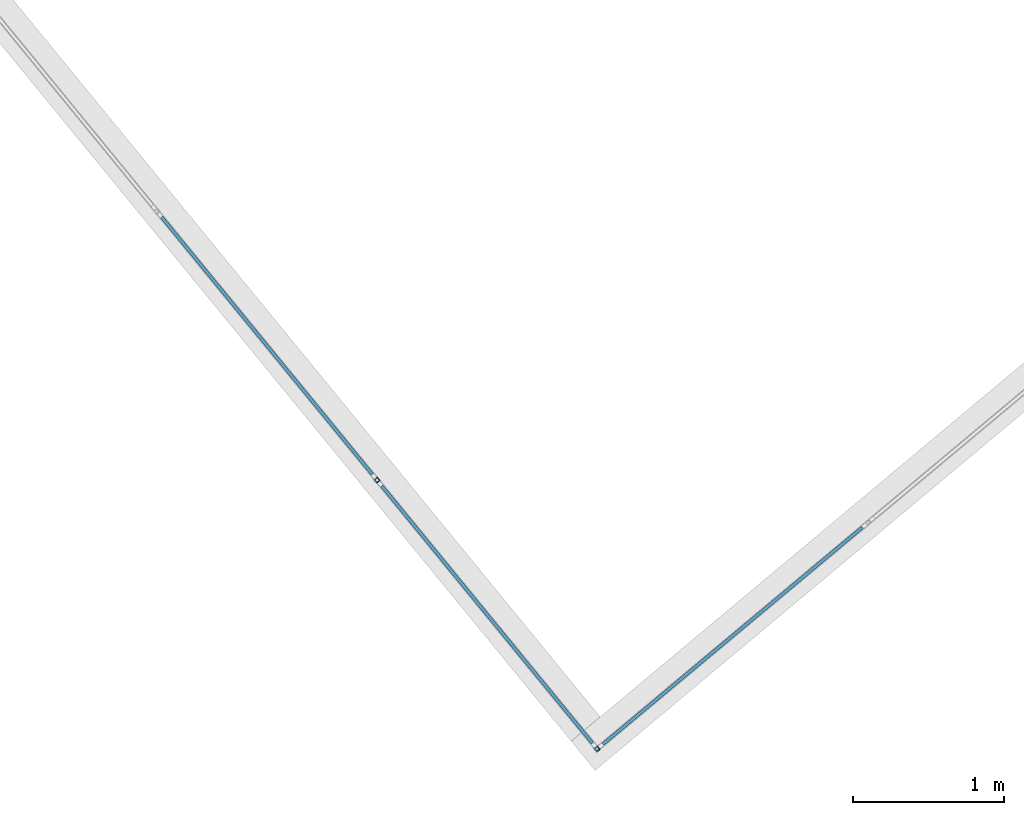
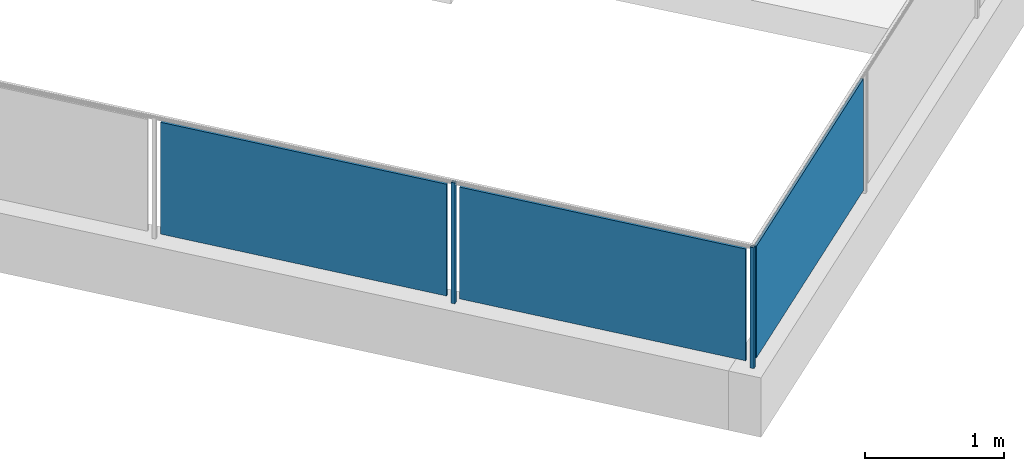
# One storey, part 16 of 67: 5 building element parts, 1 element without a shape of its own.
"""IFC4 building model written with IfcOpenShell, lengths in metres."""

import ifcopenshell
import ifcopenshell.guid

model = None  # the IFC model being written
_history = None  # IfcOwnerHistory: only IFC2X3 demands one
_inside = {}  # id of a spatial element -> (the spatial element, [elements in it])
_under = {}  # id of a project, library or spatial element -> (it, [spatial elements below it])
_declared = {}  # id of a project -> (the project, [libraries it declares])
_typed = {}  # id of a type object -> (the type object, [elements of that type])
_made_of = {}  # id of a material, layer set ... -> (it, [elements and type objects made of it])


def new_model(schema):
    """Start an empty IFC model of exactly this schema.

    Asked for "IFC4X3", IfcOpenShell would pick the latest addendum, in which some entities
    have other attributes; the version numbers below select the first issue.
    IFC2X3 requires an IfcOwnerHistory on every rooted entity: one is made here for all.
    """
    global model, _history
    if schema == "IFC4X3":
        model = ifcopenshell.file(schema_version=(4, 3, 0, 0))
    else:
        model = ifcopenshell.file(schema=schema)
    _inside.clear()
    _under.clear()
    _declared.clear()
    _typed.clear()
    _made_of.clear()
    _history = None
    if model.schema == "IFC2X3":
        org = make("IfcOrganization", Name="unknown")
        user = make(
            "IfcPersonAndOrganization",
            ThePerson=make("IfcPerson", FamilyName="unknown"),
            TheOrganization=org,
        )
        app = make(
            "IfcApplication",
            ApplicationDeveloper=org,
            Version="unknown",
            ApplicationFullName="unknown",
            ApplicationIdentifier="unknown",
        )
        _history = make(
            "IfcOwnerHistory",
            OwningUser=user,
            OwningApplication=app,
            ChangeAction="ADDED",
            CreationDate=0,
        )
    return model


def make(cls, **values):
    """One entity of the class cls with the attributes given. An attribute that is None is left unset."""
    return model.create_entity(
        cls, **{name: value for name, value in values.items() if value is not None}
    )


def entity(cls, *values):
    """Any entity or typed value of the class cls, its attributes in the order of the schema. None: left unset."""
    e = model.create_entity(cls)
    for i, value in enumerate(values):
        if value is not None:
            e[i] = value
    return e


def rooted(cls, **values):
    """An entity with a GlobalId (a new one), such as an element, a storey or a relation."""
    return make(cls, GlobalId=ifcopenshell.guid.new(), OwnerHistory=_history, **values)


def si_unit(unit_type, name, prefix=None):
    """IfcSIUnit, for example si_unit("LENGTHUNIT", "METRE", prefix="MILLI")."""
    return make("IfcSIUnit", UnitType=unit_type, Prefix=prefix, Name=name)


def converted_unit(unit_type, name, factor, base, dimensions=None, offset=None):
    """IfcConversionBasedUnit, such as the inch: factor (a typed value) times the base unit."""
    return make(
        "IfcConversionBasedUnit"
        if offset is None
        else "IfcConversionBasedUnitWithOffset",
        ConversionOffset=offset,
        Dimensions=None
        if dimensions is None
        else entity("IfcDimensionalExponents", *dimensions),
        UnitType=unit_type,
        Name=name,
        ConversionFactor=make(
            "IfcMeasureWithUnit", ValueComponent=factor, UnitComponent=base
        ),
    )


def derived_unit(unit_type, elements):
    """IfcDerivedUnit: a product of units, each with its exponent."""
    return make(
        "IfcDerivedUnit",
        Elements=[
            make("IfcDerivedUnitElement", Unit=unit, Exponent=power)
            for unit, power in elements
        ],
        UnitType=unit_type,
    )


def assignment(units):
    """IfcUnitAssignment: the units of a project."""
    return None if units is None else make("IfcUnitAssignment", Units=units)


def point(xyz):
    """IfcCartesianPoint."""
    return None if xyz is None else make("IfcCartesianPoint", Coordinates=xyz)


def direction(xyz):
    """IfcDirection."""
    return None if xyz is None else make("IfcDirection", DirectionRatios=xyz)


def frame(location, z_axis=None, x_axis=None):
    """IfcAxis2Placement3D, a coordinate frame: its origin and axes. An axis left out is left unset."""
    return make(
        "IfcAxis2Placement3D",
        Location=point(location),
        Axis=direction(z_axis),
        RefDirection=direction(x_axis),
    )


def origin_with_axes():
    """The frame at (0, 0, 0) with the z axis (0, 0, 1) and the x axis (1, 0, 0) written out."""
    return frame((0.0, 0.0, 0.0), z_axis=(0.0, 0.0, 1.0), x_axis=(1.0, 0.0, 0.0))


def place(relative_to, where):
    """IfcLocalPlacement: puts the frame where relative to a parent placement (None: the world)."""
    return make(
        "IfcLocalPlacement", PlacementRelTo=relative_to, RelativePlacement=where
    )


def context(
    kind, dimensions, precision=None, world=None, true_north=None, identifier=None
):
    """IfcGeometricRepresentationContext, for example the 3D "Model" context."""
    return make(
        "IfcGeometricRepresentationContext",
        ContextIdentifier=identifier,
        ContextType=kind,
        CoordinateSpaceDimension=dimensions,
        Precision=precision,
        WorldCoordinateSystem=world,
        TrueNorth=true_north,
    )


def subcontext(parent, identifier, kind, view, scale=None):
    """IfcGeometricRepresentationSubContext, for example "Body" below "Model"."""
    return make(
        "IfcGeometricRepresentationSubContext",
        ContextIdentifier=identifier,
        ContextType=kind,
        ParentContext=parent,
        TargetScale=scale,
        TargetView=view,
    )


def project(units=None, contexts=None):
    """IfcProject with its units and contexts."""
    return rooted(
        "IfcProject",
        Name="project",
        RepresentationContexts=contexts,
        UnitsInContext=assignment(units),
    )


def spatial(cls, under=None, at=None, **own):
    """A site, building, storey or space (cls), placed at a placement, below another one or the project."""
    s = rooted(cls, ObjectPlacement=at, **own)
    if under is not None:
        _under.setdefault(under.id(), (under, []))[1].append(s)
    return s


def point_list(points):
    """IfcCartesianPointList2D or 3D."""
    cls = (
        "IfcCartesianPointList2D" if len(points[0]) == 2 else "IfcCartesianPointList3D"
    )
    return make(cls, CoordList=points)


def polygons(points, faces, closed=None, point_numbers=None):
    """IfcPolygonalFaceSet: a face is its outer loop, then its inner loops; points numbered from 1."""
    made = []
    for loops in faces:
        if len(loops) == 1:
            made.append(make("IfcIndexedPolygonalFace", CoordIndex=loops[0]))
        else:
            made.append(
                make(
                    "IfcIndexedPolygonalFaceWithVoids",
                    CoordIndex=loops[0],
                    InnerCoordIndices=loops[1:],
                )
            )
    return make(
        "IfcPolygonalFaceSet",
        Coordinates=point_list(points),
        Closed=closed,
        Faces=made,
        PnIndex=point_numbers,
    )


def shape(context_of_items, identifier, shape_type, items):
    """IfcShapeRepresentation: the items that make up one representation, for example the "Body"."""
    return make(
        "IfcShapeRepresentation",
        ContextOfItems=context_of_items,
        RepresentationIdentifier=identifier,
        RepresentationType=shape_type,
        Items=items,
    )


def material(Name=None, Category=None):
    """IfcMaterial."""
    return make("IfcMaterial", Name=Name, Category=Category)


def made_of(thing, what):
    """Note that an element or type object is made of a material, layer set ...; save() writes the relation."""
    if what is not None:
        _made_of.setdefault(what.id(), (what, []))[1].append(thing)
    return thing


def type_object(cls, material=None, **own):
    """A type object (cls), such as IfcWallType, which elements share."""
    return made_of(rooted(cls, **own), material)


def element(
    cls,
    number,
    at=None,
    inside=None,
    cuts=None,
    type_object=None,
    material=None,
    context=None,
    identifier="Body",
    shape_type=None,
    held_by="IfcProductDefinitionShape",
    body=None,
    shapes=None,
    **own,
):
    """One element of the class cls, such as IfcWall. Its Tag is "e" and its number.

    at: its placement. inside: the storey or other place that contains it. cuts: it is an
    opening in that element (IfcRelVoidsElement). A single representation is given by context,
    identifier, shape_type and body (its items); several are given by shapes. held_by: the class
    of the entity that holds the representations. save() writes the other relations.
    """
    e = rooted(cls, Tag="e%d" % number, ObjectPlacement=at, **own)
    if body is not None:
        shapes = [shape(context, identifier, shape_type, body)]
    if shapes is not None:
        e.Representation = make(held_by, Representations=shapes)
    if inside is not None:
        _inside.setdefault(inside.id(), (inside, []))[1].append(e)
    if cuts is not None:
        rooted(
            "IfcRelVoidsElement", RelatingBuildingElement=cuts, RelatedOpeningElement=e
        )
    if type_object is not None:
        _typed.setdefault(type_object.id(), (type_object, []))[1].append(e)
    return made_of(e, material)


def aggregate(whole, parts):
    """IfcRelAggregates: a whole, such as a stair, and the parts it consists of."""
    return rooted("IfcRelAggregates", RelatingObject=whole, RelatedObjects=parts)


def save(model, path):
    """Write the relations noted so far, then the file.

    IfcRelAggregates (storeys below a building ...), IfcRelContainedInSpatialStructure (elements
    in a storey), IfcRelDefinesByType, IfcRelAssociatesMaterial and IfcRelDeclares: one each for
    every whole, place, type object, material and project.
    """
    for whole, parts in _under.values():
        aggregate(whole, parts)
    for where, things in _inside.values():
        rooted(
            "IfcRelContainedInSpatialStructure",
            RelatedElements=things,
            RelatingStructure=where,
        )
    for kind, things in _typed.values():
        rooted("IfcRelDefinesByType", RelatedObjects=things, RelatingType=kind)
    for what, things in _made_of.values():
        rooted("IfcRelAssociatesMaterial", RelatedObjects=things, RelatingMaterial=what)
    for by, libraries in _declared.values():
        rooted("IfcRelDeclares", RelatingContext=by, RelatedDefinitions=libraries)
    model.write(path)


model = new_model("IFC4")

# Units and contexts
model_context = context("Model", 3, precision=1e-05, world=origin_with_axes(), true_north=direction((0.0, 1.0)))
body_context = subcontext(model_context, "Body", "Model", "MODEL_VIEW")
ifc_project = project(units=[si_unit("LENGTHUNIT", "METRE"), si_unit("AREAUNIT", "SQUARE_METRE"), si_unit("VOLUMEUNIT", "CUBIC_METRE"), converted_unit("PLANEANGLEUNIT", "DEGREE", entity("IfcPlaneAngleMeasure", 0.0174532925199), si_unit("PLANEANGLEUNIT", "RADIAN"), dimensions=[0, 0, 0, 0, 0, 0, 0]), converted_unit("TIMEUNIT", "Year", entity("IfcTimeMeasure", 31556926.0), si_unit("TIMEUNIT", "SECOND"), dimensions=[0, 0, 1, 0, 0, 0, 0]), si_unit("MASSUNIT", "GRAM", prefix="KILO"), si_unit("THERMODYNAMICTEMPERATUREUNIT", "DEGREE_CELSIUS"), si_unit("LUMINOUSINTENSITYUNIT", "LUMEN"), si_unit("ENERGYUNIT", "JOULE", prefix="MEGA"), derived_unit("THERMALCONDUCTANCEUNIT", [(si_unit("POWERUNIT", "WATT"), 1), (si_unit("LENGTHUNIT", "METRE"), -1), (si_unit("THERMODYNAMICTEMPERATUREUNIT", "KELVIN"), -1)]), derived_unit("SPECIFICHEATCAPACITYUNIT", [(si_unit("ENERGYUNIT", "JOULE"), 1), (si_unit("MASSUNIT", "GRAM", prefix="KILO"), -1), (si_unit("THERMODYNAMICTEMPERATUREUNIT", "KELVIN"), -1)]), derived_unit("MASSDENSITYUNIT", [(si_unit("MASSUNIT", "GRAM", prefix="KILO"), 1), (si_unit("VOLUMEUNIT", "CUBIC_METRE"), -1)])], contexts=[model_context])

# Site, building, storey
site_placement = place(None, frame((-0.00153261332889, -0.00661245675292, 0.0), z_axis=(0.0, 0.0, 1.0), x_axis=(1.0, 0.0, 0.0)))
site = spatial("IfcSite", under=ifc_project, at=site_placement, Name="Site", CompositionType="ELEMENT")
building_placement = place(site_placement, origin_with_axes())
building = spatial("IfcBuilding", under=site, at=building_placement, Name="Building", CompositionType="ELEMENT")
storey_placement = place(building_placement, frame((0.0, 0.0, -0.22), z_axis=(0.0, 0.0, 1.0), x_axis=(1.0, 0.0, 0.0)))
storey = spatial("IfcBuildingStorey", under=building, at=storey_placement, Name="EG", CompositionType="ELEMENT", Elevation=-0.22)

# Railing, building element parts
railing_type = type_object("IfcRailingType", Name="Geländerart", PredefinedType="NOTDEFINED")
railing_placement = place(storey_placement, frame((-12.1608341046, 23.557810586, 0.523948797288), z_axis=(0.0, 0.0, 1.0), x_axis=(1.0, 0.0, 0.0)))
railing = element("IfcRailing", 1, at=railing_placement, inside=storey, type_object=railing_type, Name="Geländer - 001", PredefinedType="NOTDEFINED")
ifc_material_1 = material(Name="Aluminium")
building_element_part_1_placement = place(railing_placement, origin_with_axes())
building_element_part_1 = element("IfcBuildingElementPart", 2, at=building_element_part_1_placement, material=ifc_material_1, Name="Aluminium", PredefinedType="NOTDEFINED", context=body_context, shape_type="Tessellation", body=[
    polygons([(12.1736460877, -23.4307967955, 0.0), (12.1968587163, -23.4117922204, 0.0), (12.1968587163, -23.4117922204, 1.06), (12.1736460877, -23.4307967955, 1.06), (12.1546415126, -23.4075841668, 0.0), (12.1778541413, -23.3885795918, 0.0), (12.1743474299, -23.4237605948, 0.0), (12.1898225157, -23.4110908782, 0.0), (12.177152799, -23.3956157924, 0.0), (12.1616777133, -23.4082855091, 0.0), (12.1778541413, -23.3885795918, 1.06), (12.1546415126, -23.4075841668, 1.06), (12.1743474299, -23.4237605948, 1.06), (12.1616777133, -23.4082855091, 1.06), (12.177152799, -23.3956157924, 1.06), (12.1898225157, -23.4110908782, 1.06)], [[[1, 2, 3, 4]], [[1, 5, 6, 2], [7, 8, 9, 10]], [[2, 6, 11, 3]], [[4, 3, 11, 12], [13, 14, 15, 16]], [[5, 1, 4, 12]], [[6, 5, 12, 11]], [[8, 7, 13, 16]], [[9, 8, 16, 15]], [[10, 9, 15, 14]], [[7, 10, 14, 13]]], closed=True),
])
ifc_material_2 = material(Name="Zaun")
building_element_part_2_placement = place(railing_placement, origin_with_axes())
building_element_part_2 = element("IfcBuildingElementPart", 3, at=building_element_part_2_placement, material=ifc_material_2, Name="Zaun", PredefinedType="NOTDEFINED", context=body_context, shape_type="Tessellation", body=[
    polygons([(10.6975489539, -21.588393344, 0.05), (9.30663312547, -19.8894964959, 0.05), (9.30663312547, -19.8894964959, 1.03), (10.6975489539, -21.588393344, 1.03), (9.29115803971, -19.9021662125, 0.05), (10.6820738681, -21.6010630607, 0.05), (9.29115803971, -19.9021662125, 1.03), (10.6820738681, -21.6010630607, 1.03)], [[[1, 2, 3, 4]], [[5, 2, 1, 6]], [[7, 3, 2, 5]], [[4, 3, 7, 8]], [[1, 4, 8, 6]], [[7, 5, 6, 8]]], closed=True),
])
building_element_part_3_placement = place(railing_placement, origin_with_axes())
building_element_part_3 = element("IfcBuildingElementPart", 4, at=building_element_part_3_placement, material=ifc_material_1, Name="Aluminium", PredefinedType="NOTDEFINED", context=body_context, shape_type="Tessellation", body=[
    polygons([(10.7193816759, -21.6545245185, 0.0), (10.7425943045, -21.6355199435, 0.0), (10.7425943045, -21.6355199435, 1.06), (10.7193816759, -21.6545245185, 1.06), (10.7003771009, -21.6313118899, 0.0), (10.7235897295, -21.6123073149, 0.0), (10.7200830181, -21.6474883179, 0.0), (10.7355581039, -21.6348186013, 0.0), (10.7228883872, -21.6193435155, 0.0), (10.7074133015, -21.6320132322, 0.0), (10.7235897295, -21.6123073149, 1.06), (10.7003771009, -21.6313118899, 1.06), (10.7200830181, -21.6474883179, 1.06), (10.7074133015, -21.6320132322, 1.06), (10.7228883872, -21.6193435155, 1.06), (10.7355581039, -21.6348186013, 1.06)], [[[1, 2, 3, 4]], [[1, 5, 6, 2], [7, 8, 9, 10]], [[2, 6, 11, 3]], [[4, 3, 11, 12], [13, 14, 15, 16]], [[5, 1, 4, 12]], [[6, 5, 12, 11]], [[8, 7, 13, 16]], [[9, 8, 16, 15]], [[10, 9, 15, 14]], [[7, 10, 14, 13]]], closed=True),
])
building_element_part_4_placement = place(railing_placement, origin_with_axes())
building_element_part_4 = element("IfcBuildingElementPart", 5, at=building_element_part_4_placement, material=ifc_material_2, Name="Zaun", PredefinedType="NOTDEFINED", context=body_context, shape_type="Tessellation", body=[
    polygons([(12.1518133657, -23.3646656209, 0.05), (10.7608975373, -21.6657687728, 0.05), (10.7608975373, -21.6657687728, 1.03), (12.1518133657, -23.3646656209, 1.03), (10.7454224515, -21.6784384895, 0.05), (12.1363382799, -23.3773353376, 0.05), (10.7454224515, -21.6784384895, 1.03), (12.1363382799, -23.3773353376, 1.03)], [[[1, 2, 3, 4]], [[5, 2, 1, 6]], [[7, 3, 2, 5]], [[4, 3, 7, 8]], [[1, 4, 8, 6]], [[7, 5, 6, 8]]], closed=True),
])
building_element_part_5_placement = place(railing_placement, origin_with_axes())
building_element_part_5 = element("IfcBuildingElementPart", 6, at=building_element_part_5_placement, material=ifc_material_2, Name="Zaun", PredefinedType="NOTDEFINED", context=body_context, shape_type="Tessellation", body=[
    polygons([(13.9218834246, -21.9373452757, 0.05), (12.2077030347, -23.3699514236, 0.05), (12.2077030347, -23.3699514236, 1.03), (13.9218834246, -21.9373452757, 1.03), (12.2205284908, -23.3852976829, 0.05), (13.9347088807, -21.952691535, 0.05), (12.2205284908, -23.3852976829, 1.03), (13.9347088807, -21.952691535, 1.03)], [[[1, 2, 3, 4]], [[5, 2, 1, 6]], [[7, 3, 2, 5]], [[4, 3, 7, 8]], [[1, 4, 8, 6]], [[7, 5, 6, 8]]], closed=True),
])
aggregate(railing, [building_element_part_1, building_element_part_2, building_element_part_3, building_element_part_4, building_element_part_5])

save(model, "model.ifc")
